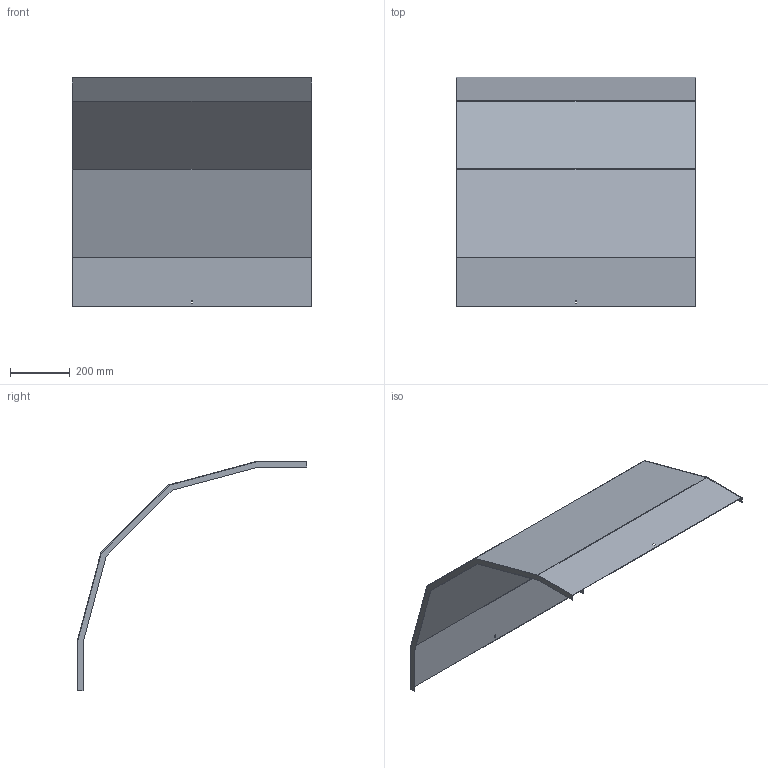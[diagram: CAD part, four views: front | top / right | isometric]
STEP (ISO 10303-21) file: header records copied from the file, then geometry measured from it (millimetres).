
FILE_DESCRIPTION (( 'STEP AP214' ), '1' );
FILE_NAME ('33N5D800.step', '2025-02-21T10:43:36', ( '' ), ( '' ), 'SwSTEP 2.0', 'SolidWorks 2023', '' );
FILE_SCHEMA (( 'AUTOMOTIVE_DESIGN' ));
Length unit declared in the file: millimetre
Products named in the file (1): 33N5D800
Bounding box: 803 x 769.82 x 769.82 mm (x, y, z)
Volume: 1595066.7 mm3; surface area: 2133080.3 mm2
Topology: 1 solids, 1 shells, 34 faces, 96 edges, 64 vertices
Faces by surface type: plane 34
Entity records: 1111 total; most frequent: CARTESIAN_POINT 195, ORIENTED_EDGE 192, DIRECTION 166, VECTOR 96, LINE 96, EDGE_CURVE 96, VERTEX_POINT 64, EDGE_LOOP 38
